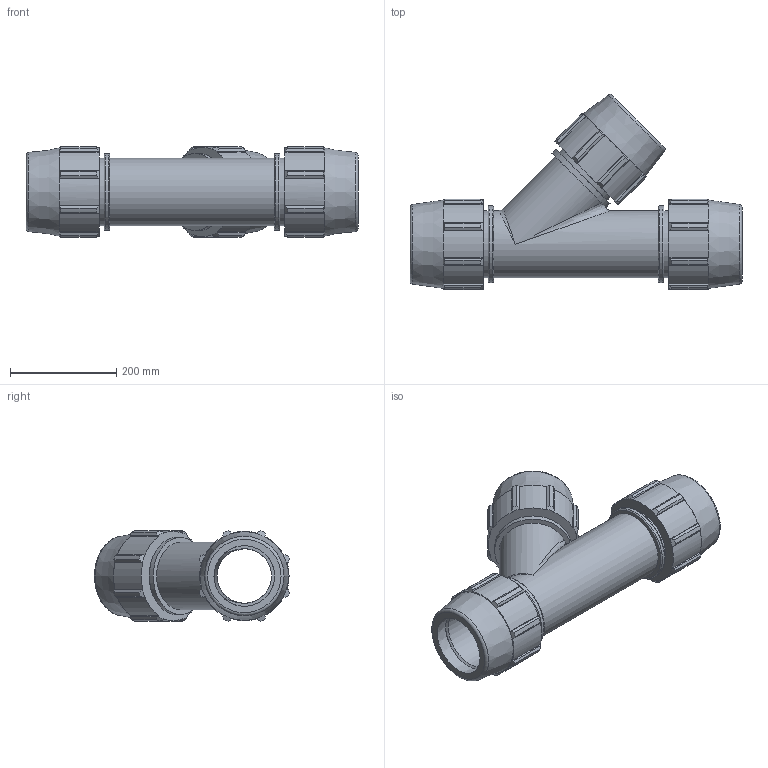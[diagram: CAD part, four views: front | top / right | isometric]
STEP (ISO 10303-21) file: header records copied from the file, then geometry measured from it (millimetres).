
FILE_DESCRIPTION(/* description */ ('PLASSON 45° TEE 4'''' - 4'''' - 4'''''),/* implementation_level */ '2;1');
FILE_NAME(/* name */ 'C:\Dropbox\KIMPROJECTS-Inventor 2019\99-16-3568-Processing Inch\ASTM Compression 2021\0764M0\0764M0040.ipt.stp',/* time_stamp */ '2021-08-26T12:34:59+03:00',/* author */ ('Кирилл'),/* organization */ (''),/* preprocessor_version */ 'ST-DEVELOPER v17.2',/* originating_system */ 'Autodesk Inventor 2019',/* authorisation */ '');
FILE_SCHEMA (('AUTOMOTIVE_DESIGN { 1 0 10303 214 3 1 1 }'));
Length unit declared in the file: inch
Products named in the file (1): 0764M0040
Bounding box: 625.09 x 367.34 x 170.4 mm (x, y, z)
Volume: 6215828.2 mm3; surface area: 778092.2 mm2
Topology: 1 solids, 1 shells, 221 faces, 653 edges, 443 vertices
Faces by surface type: plane 115, cylinder 62, cone 35, torus 7, bspline 2
Full cylindrical faces by diameter (mm): 102.69 x2, 114.1 x3, 126.771 x4, 144.882 x3
Entity records: 7893 total; most frequent: CARTESIAN_POINT 1752, ORIENTED_EDGE 1298, DIRECTION 1227, EDGE_CURVE 649, AXIS2_PLACEMENT_3D 458, VERTEX_POINT 443, LINE 311, VECTOR 311
